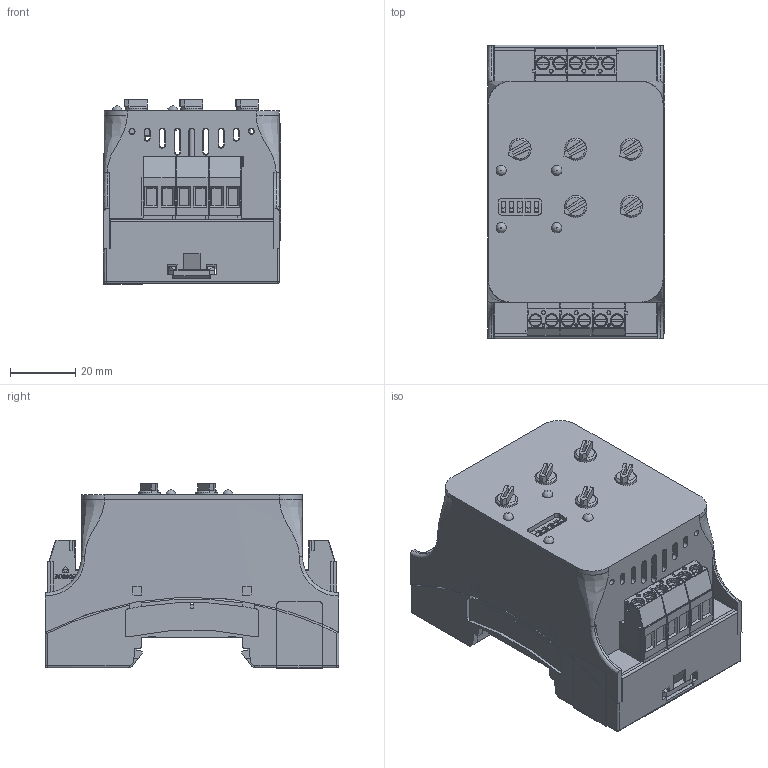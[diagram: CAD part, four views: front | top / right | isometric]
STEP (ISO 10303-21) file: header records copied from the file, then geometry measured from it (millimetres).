
FILE_DESCRIPTION(/* description */ ('','CAx-IF Rec.Pracs.---Representation and Presentation of Product Manufacturing Information (PMI)---4.0---2014-10-13'),/* implementation_level */ '2;1');
FILE_NAME(/* name */ 'D:\WorkIMT\Project IMT\Флокс-U\v1\3D на сайт\FLOX-U 3D.stp',/* time_stamp */ '2025-11-24T12:47:16+03:00',/* author */ ('admin'),/* organization */ (''),/* preprocessor_version */ 'ST-DEVELOPER v17.2',/* originating_system */ 'Autodesk Inventor 2019',/* authorisation */ '');
FILE_SCHEMA (('AP242_MANAGED_MODEL_BASED_3D_ENGINEERING_MIM_LF { 1 0 10303 442 1 1 4 }'));
Products named in the file (1): FLOX-U 3D
Bounding box: 54.2 x 89.74 x 56.49 mm (x, y, z)
Volume: 54739.6 mm3; surface area: 66129.4 mm2
Topology: 3 solids, 35 shells, 3591 faces, 10279 edges, 6775 vertices
Faces by surface type: plane 2941, cylinder 350, cone 90, bspline 88, torus 82, sphere 40
Full cylindrical faces by diameter (mm): 1.2 x18, 2 x5, 2.6 x4, 4.05 x11, 4.3 x5, 5 x5, 6.7 x5
Entity records: 128788 total; most frequent: CARTESIAN_POINT 31382, ORIENTED_EDGE 20490, DIRECTION 17958, EDGE_CURVE 10245, LINE 8330, VECTOR 8330, VERTEX_POINT 6775, AXIS2_PLACEMENT_3D 4814
